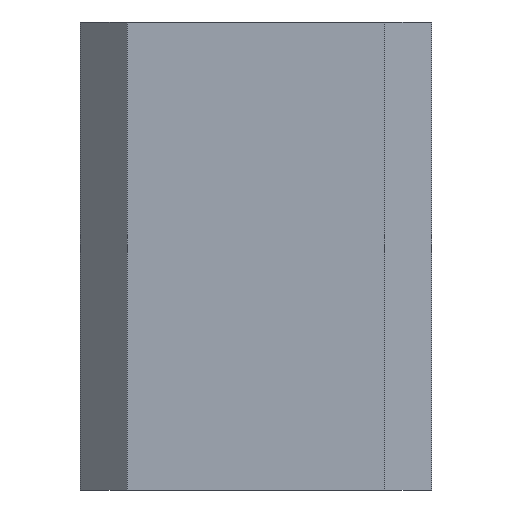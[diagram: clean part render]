
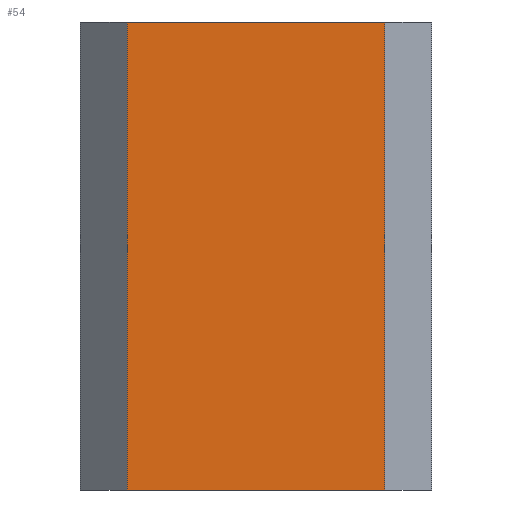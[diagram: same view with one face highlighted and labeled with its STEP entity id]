
A CAD part, left-side view. The second image highlights one B-rep face of the part: STEP entity #54.
In plain terms, the highlighted planar face has unit normal (-1, 0, 0).
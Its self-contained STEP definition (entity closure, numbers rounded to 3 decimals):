
#46 = CARTESIAN_POINT ( 'NONE',  ( -20., -7.5, 0. ) ) ;
#54 = ADVANCED_FACE ( 'NONE', ( #564 ), #150, .F. ) ;
#68 = EDGE_CURVE ( 'NONE', #346, #434, #382, .T. ) ;
#72 = CARTESIAN_POINT ( 'NONE',  ( -20., -5.5, 20. ) ) ;
#84 = VERTEX_POINT ( 'NONE', #508 ) ;
#130 = DIRECTION ( 'NONE',  ( 0., 0., -1. ) ) ;
#150 = PLANE ( 'NONE',  #637 ) ;
#179 = LINE ( 'NONE', #72, #651 ) ;
#194 = EDGE_LOOP ( 'NONE', ( #538, #712, #655, #495 ) ) ;
#241 = LINE ( 'NONE', #658, #283 ) ;
#261 = DIRECTION ( 'NONE',  ( 0., 0., -1. ) ) ;
#265 = DIRECTION ( 'NONE',  ( 0., -1., 0. ) ) ;
#267 = CARTESIAN_POINT ( 'NONE',  ( -20., -7.5, 20. ) ) ;
#277 = EDGE_CURVE ( 'NONE', #706, #84, #345, .T. ) ;
#283 = VECTOR ( 'NONE', #130, 1000. ) ;
#341 = EDGE_CURVE ( 'NONE', #434, #84, #179, .T. ) ;
#345 = LINE ( 'NONE', #642, #593 ) ;
#346 = VERTEX_POINT ( 'NONE', #654 ) ;
#363 = EDGE_CURVE ( 'NONE', #706, #346, #241, .T. ) ;
#382 = LINE ( 'NONE', #46, #615 ) ;
#434 = VERTEX_POINT ( 'NONE', #677 ) ;
#495 = ORIENTED_EDGE ( 'NONE', *, *, #341, .T. ) ;
#508 = CARTESIAN_POINT ( 'NONE',  ( -20., -5.5, 20. ) ) ;
#538 = ORIENTED_EDGE ( 'NONE', *, *, #277, .F. ) ;
#564 = FACE_OUTER_BOUND ( 'NONE', #194, .T. ) ;
#578 = DIRECTION ( 'NONE',  ( 0., -1., 0. ) ) ;
#593 = VECTOR ( 'NONE', #578, 1000. ) ;
#597 = DIRECTION ( 'NONE',  ( 0., 0., 1. ) ) ;
#615 = VECTOR ( 'NONE', #265, 1000. ) ;
#637 = AXIS2_PLACEMENT_3D ( 'NONE', #267, #670, #261 ) ;
#642 = CARTESIAN_POINT ( 'NONE',  ( -20., -7.5, 20. ) ) ;
#647 = CARTESIAN_POINT ( 'NONE',  ( -20., 5.5, 20. ) ) ;
#651 = VECTOR ( 'NONE', #597, 1000. ) ;
#654 = CARTESIAN_POINT ( 'NONE',  ( -20., 5.5, 0. ) ) ;
#655 = ORIENTED_EDGE ( 'NONE', *, *, #68, .T. ) ;
#658 = CARTESIAN_POINT ( 'NONE',  ( -20., 5.5, 20. ) ) ;
#670 = DIRECTION ( 'NONE',  ( 1., 0., 0. ) ) ;
#677 = CARTESIAN_POINT ( 'NONE',  ( -20., -5.5, 0. ) ) ;
#706 = VERTEX_POINT ( 'NONE', #647 ) ;
#712 = ORIENTED_EDGE ( 'NONE', *, *, #363, .T. ) ;
